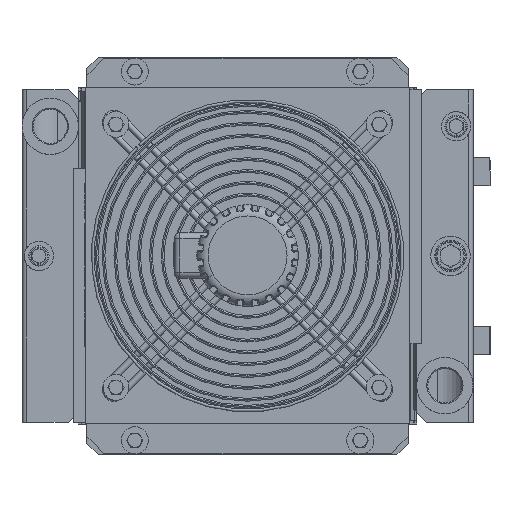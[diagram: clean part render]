
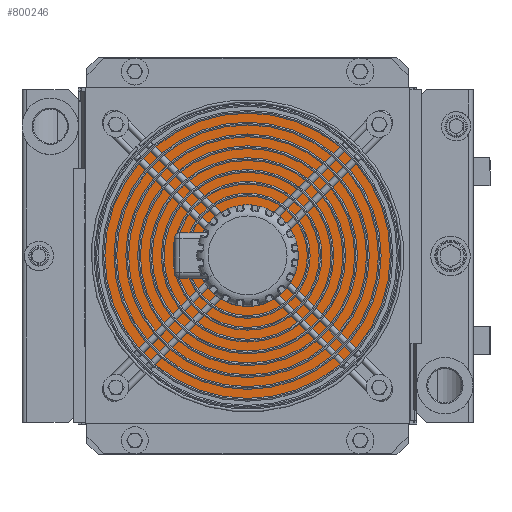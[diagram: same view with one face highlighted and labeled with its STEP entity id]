
A CAD part, top view. The second image highlights one B-rep face of the part: STEP entity #800246.
In plain terms, the highlighted planar face has unit normal (0, 0, 1).
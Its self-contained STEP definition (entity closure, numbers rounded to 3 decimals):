
#797916=CARTESIAN_POINT(' ',(144.247,292.23,31.5));
#797917=VERTEX_POINT(' ',#797916);
#798271=CARTESIAN_POINT(' ',(-144.247,292.23,31.5));
#798272=VERTEX_POINT(' ',#798271);
#798286=CARTESIAN_POINT(' ',(144.247,292.23,31.5));
#798291=DIRECTION(' ',(-1.,0.,0.));
#798296=VECTOR(' ',#798291,1.);
#798301=LINE(' ',#798286,#798296);
#798306=EDGE_CURVE(' ',#797917,#798272,#798301,.T.);
#798441=CARTESIAN_POINT(' ',(144.247,292.23,31.5));
#798446=DIRECTION(' ',(0.,-1.,0.));
#798451=VECTOR(' ',#798446,1.);
#798456=LINE(' ',#798441,#798451);
#798461=CARTESIAN_POINT(' ',(144.247,0.,31.5));
#798462=VERTEX_POINT(' ',#798461);
#798466=EDGE_CURVE(' ',#797917,#798462,#798456,.T.);
#800031=CARTESIAN_POINT(' ',(-144.247,292.23,31.5));
#800036=DIRECTION(' ',(0.,-1.,0.));
#800041=VECTOR(' ',#800036,1.);
#800046=LINE(' ',#800031,#800041);
#800051=CARTESIAN_POINT(' ',(-144.247,0.,31.5));
#800052=VERTEX_POINT(' ',#800051);
#800056=EDGE_CURVE(' ',#798272,#800052,#800046,.T.);
#800166=CARTESIAN_POINT(' ',(-144.247,0.,31.5));
#800171=DIRECTION(' ',(0.,0.,1.));
#800176=DIRECTION(' ',(1.,0.,0.));
#800181=AXIS2_PLACEMENT_3D(' ',#800166,#800171,#800176);
#800186=PLANE(' ',#800181);
#800191=ORIENTED_EDGE(' ',*,*,#798466,.F.);
#800196=ORIENTED_EDGE(' ',*,*,#798306,.T.);
#800201=ORIENTED_EDGE(' ',*,*,#800056,.T.);
#800206=CARTESIAN_POINT(' ',(144.247,0.,31.5));
#800211=DIRECTION(' ',(-1.,0.,0.));
#800216=VECTOR(' ',#800211,1.);
#800221=LINE(' ',#800206,#800216);
#800226=EDGE_CURVE(' ',#798462,#800052,#800221,.T.);
#800231=ORIENTED_EDGE(' ',*,*,#800226,.F.);
#800236=EDGE_LOOP(' ',(#800191,#800196,#800201,#800231));
#800241=FACE_OUTER_BOUND(' ',#800236,.T.);
#800246=ADVANCED_FACE(' ',(#800241),#800186,.T.);
